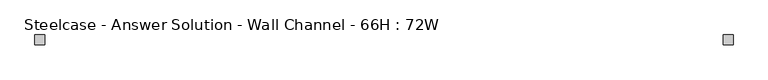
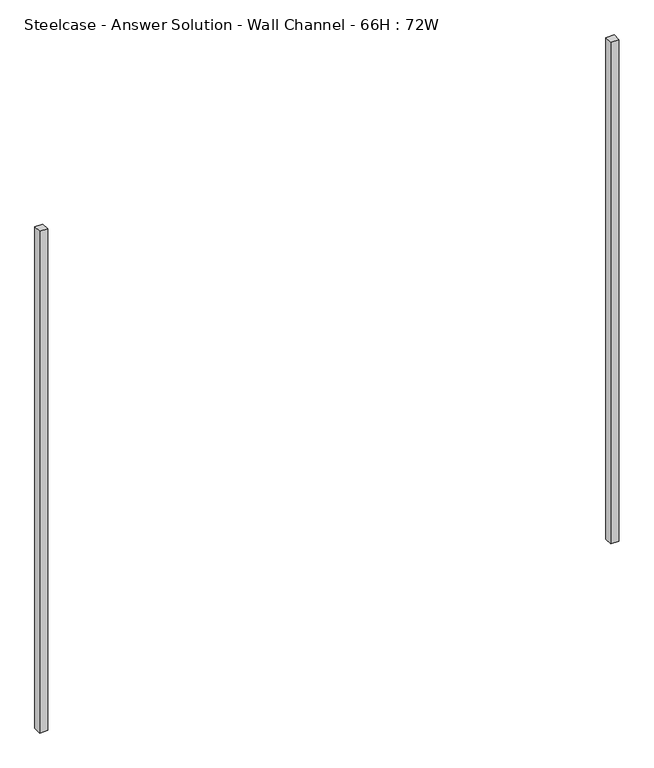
"""IFC4 building model written with IfcOpenShell, lengths in millimetres: furniture geometry, Steelcase - Answer Solution - Wall Channel - 66H : 72W."""

import ifcopenshell
import ifcopenshell.guid

model = None  # the IFC model being written
_history = None  # IfcOwnerHistory: only IFC2X3 demands one
_inside = {}  # id of a spatial element -> (the spatial element, [elements in it])
_under = {}  # id of a project, library or spatial element -> (it, [spatial elements below it])
_declared = {}  # id of a project -> (the project, [libraries it declares])
_typed = {}  # id of a type object -> (the type object, [elements of that type])
_made_of = {}  # id of a material, layer set ... -> (it, [elements and type objects made of it])


def new_model(schema):
    """Start an empty IFC model of exactly this schema.

    Asked for "IFC4X3", IfcOpenShell would pick the latest addendum, in which some entities
    have other attributes; the version numbers below select the first issue.
    IFC2X3 requires an IfcOwnerHistory on every rooted entity: one is made here for all.
    """
    global model, _history
    if schema == "IFC4X3":
        model = ifcopenshell.file(schema_version=(4, 3, 0, 0))
    else:
        model = ifcopenshell.file(schema=schema)
    _inside.clear()
    _under.clear()
    _declared.clear()
    _typed.clear()
    _made_of.clear()
    _history = None
    if model.schema == "IFC2X3":
        org = make("IfcOrganization", Name="unknown")
        user = make(
            "IfcPersonAndOrganization",
            ThePerson=make("IfcPerson", FamilyName="unknown"),
            TheOrganization=org,
        )
        app = make(
            "IfcApplication",
            ApplicationDeveloper=org,
            Version="unknown",
            ApplicationFullName="unknown",
            ApplicationIdentifier="unknown",
        )
        _history = make(
            "IfcOwnerHistory",
            OwningUser=user,
            OwningApplication=app,
            ChangeAction="ADDED",
            CreationDate=0,
        )
    return model


def make(cls, **values):
    """One entity of the class cls with the attributes given. An attribute that is None is left unset."""
    return model.create_entity(
        cls, **{name: value for name, value in values.items() if value is not None}
    )


def rooted(cls, **values):
    """An entity with a GlobalId (a new one), such as an element, a storey or a relation."""
    return make(cls, GlobalId=ifcopenshell.guid.new(), OwnerHistory=_history, **values)


def si_unit(unit_type, name, prefix=None):
    """IfcSIUnit, for example si_unit("LENGTHUNIT", "METRE", prefix="MILLI")."""
    return make("IfcSIUnit", UnitType=unit_type, Prefix=prefix, Name=name)


def assignment(units):
    """IfcUnitAssignment: the units of a project."""
    return None if units is None else make("IfcUnitAssignment", Units=units)


def point(xyz):
    """IfcCartesianPoint."""
    return None if xyz is None else make("IfcCartesianPoint", Coordinates=xyz)


def direction(xyz):
    """IfcDirection."""
    return None if xyz is None else make("IfcDirection", DirectionRatios=xyz)


def frame(location, z_axis=None, x_axis=None):
    """IfcAxis2Placement3D, a coordinate frame: its origin and axes. An axis left out is left unset."""
    return make(
        "IfcAxis2Placement3D",
        Location=point(location),
        Axis=direction(z_axis),
        RefDirection=direction(x_axis),
    )


def origin():
    """The frame at (0, 0, 0) with its axes left unset."""
    return frame((0.0, 0.0, 0.0))


def origin_with_axes():
    """The frame at (0, 0, 0) with the z axis (0, 0, 1) and the x axis (1, 0, 0) written out."""
    return frame((0.0, 0.0, 0.0), z_axis=(0.0, 0.0, 1.0), x_axis=(1.0, 0.0, 0.0))


def place(relative_to, where):
    """IfcLocalPlacement: puts the frame where relative to a parent placement (None: the world)."""
    return make(
        "IfcLocalPlacement", PlacementRelTo=relative_to, RelativePlacement=where
    )


def context(
    kind, dimensions, precision=None, world=None, true_north=None, identifier=None
):
    """IfcGeometricRepresentationContext, for example the 3D "Model" context."""
    return make(
        "IfcGeometricRepresentationContext",
        ContextIdentifier=identifier,
        ContextType=kind,
        CoordinateSpaceDimension=dimensions,
        Precision=precision,
        WorldCoordinateSystem=world,
        TrueNorth=true_north,
    )


def project(units=None, contexts=None):
    """IfcProject with its units and contexts."""
    return rooted(
        "IfcProject",
        Name="project",
        RepresentationContexts=contexts,
        UnitsInContext=assignment(units),
    )


def spatial(cls, under=None, at=None, **own):
    """A site, building, storey or space (cls), placed at a placement, below another one or the project."""
    s = rooted(cls, ObjectPlacement=at, **own)
    if under is not None:
        _under.setdefault(under.id(), (under, []))[1].append(s)
    return s


def polyline(points):
    """IfcPolyline through the points."""
    return make("IfcPolyline", Points=[point(p) for p in points])


def outline(outer, holes=None, kind="AREA"):
    """IfcArbitraryClosedProfileDef: a profile drawn as a closed curve; with holes, ...WithVoids."""
    if holes is None:
        return make("IfcArbitraryClosedProfileDef", ProfileType=kind, OuterCurve=outer)
    return make(
        "IfcArbitraryProfileDefWithVoids",
        ProfileType=kind,
        OuterCurve=outer,
        InnerCurves=holes,
    )


def extrude(swept, where, along, depth):
    """IfcExtrudedAreaSolid: the profile swept, set in the frame where, extruded along a direction by depth."""
    return make(
        "IfcExtrudedAreaSolid",
        SweptArea=swept,
        Position=where,
        ExtrudedDirection=direction(along),
        Depth=depth,
    )


def shape(context_of_items, identifier, shape_type, items):
    """IfcShapeRepresentation: the items that make up one representation, for example the "Body"."""
    return make(
        "IfcShapeRepresentation",
        ContextOfItems=context_of_items,
        RepresentationIdentifier=identifier,
        RepresentationType=shape_type,
        Items=items,
    )


def source(mapping_origin, context_of_items, identifier, shape_type, items):
    """IfcRepresentationMap: a shape defined once, which mapped items show again and again."""
    return make(
        "IfcRepresentationMap",
        MappingOrigin=mapping_origin,
        MappedRepresentation=shape(context_of_items, identifier, shape_type, items),
    )


def transform(
    local_origin,
    x_axis=None,
    y_axis=None,
    z_axis=None,
    scale=None,
    scale2=None,
    scale3=None,
    uniform=True,
):
    """IfcCartesianTransformationOperator3D, or its non-uniform kind. x_axis, y_axis, z_axis: its Axis1, 2, 3."""
    if uniform:
        return make(
            "IfcCartesianTransformationOperator3D",
            Axis1=direction(x_axis),
            Axis2=direction(y_axis),
            LocalOrigin=point(local_origin),
            Scale=scale,
            Axis3=direction(z_axis),
        )
    return make(
        "IfcCartesianTransformationOperator3DnonUniform",
        Axis1=direction(x_axis),
        Axis2=direction(y_axis),
        LocalOrigin=point(local_origin),
        Scale=scale,
        Axis3=direction(z_axis),
        Scale2=scale2,
        Scale3=scale3,
    )


def mapped(mapping_source, mapping_target):
    """IfcMappedItem: shows the shape of a source again, moved by a transform."""
    return make(
        "IfcMappedItem", MappingSource=mapping_source, MappingTarget=mapping_target
    )


def made_of(thing, what):
    """Note that an element or type object is made of a material, layer set ...; save() writes the relation."""
    if what is not None:
        _made_of.setdefault(what.id(), (what, []))[1].append(thing)
    return thing


def element(
    cls,
    number,
    at=None,
    inside=None,
    cuts=None,
    type_object=None,
    material=None,
    context=None,
    identifier="Body",
    shape_type=None,
    held_by="IfcProductDefinitionShape",
    body=None,
    shapes=None,
    **own,
):
    """One element of the class cls, such as IfcWall. Its Tag is "e" and its number.

    at: its placement. inside: the storey or other place that contains it. cuts: it is an
    opening in that element (IfcRelVoidsElement). A single representation is given by context,
    identifier, shape_type and body (its items); several are given by shapes. held_by: the class
    of the entity that holds the representations. save() writes the other relations.
    """
    e = rooted(cls, Tag="e%d" % number, ObjectPlacement=at, **own)
    if body is not None:
        shapes = [shape(context, identifier, shape_type, body)]
    if shapes is not None:
        e.Representation = make(held_by, Representations=shapes)
    if inside is not None:
        _inside.setdefault(inside.id(), (inside, []))[1].append(e)
    if cuts is not None:
        rooted(
            "IfcRelVoidsElement", RelatingBuildingElement=cuts, RelatedOpeningElement=e
        )
    if type_object is not None:
        _typed.setdefault(type_object.id(), (type_object, []))[1].append(e)
    return made_of(e, material)


def aggregate(whole, parts):
    """IfcRelAggregates: a whole, such as a stair, and the parts it consists of."""
    return rooted("IfcRelAggregates", RelatingObject=whole, RelatedObjects=parts)


def save(model, path):
    """Write the relations noted so far, then the file.

    IfcRelAggregates (storeys below a building ...), IfcRelContainedInSpatialStructure (elements
    in a storey), IfcRelDefinesByType, IfcRelAssociatesMaterial and IfcRelDeclares: one each for
    every whole, place, type object, material and project.
    """
    for whole, parts in _under.values():
        aggregate(whole, parts)
    for where, things in _inside.values():
        rooted(
            "IfcRelContainedInSpatialStructure",
            RelatedElements=things,
            RelatingStructure=where,
        )
    for kind, things in _typed.values():
        rooted("IfcRelDefinesByType", RelatedObjects=things, RelatingType=kind)
    for what, things in _made_of.values():
        rooted("IfcRelAssociatesMaterial", RelatedObjects=things, RelatingMaterial=what)
    for by, libraries in _declared.values():
        rooted("IfcRelDeclares", RelatingContext=by, RelatedDefinitions=libraries)
    model.write(path)


def steelcase_answer_solution_wall_channel_66h_72w_49448df2(model_context):
    return source(origin(), model_context, "Body", "SweptSolid", [
        extrude(outline(polyline([(1803.4, 0.0), (1828.8, 0.0), (1828.8, -25.4), (1803.4, -25.4), (1803.4, 0.0)])), origin_with_axes(), (0.0, 0.0, 1.0), 1673.225),
        extrude(outline(polyline([(25.4, 0.0), (25.4, -25.4), (0.0, -25.4), (0.0, 0.0), (25.4, 0.0)])), origin_with_axes(), (0.0, 0.0, 1.0), 1673.225),
    ])


if __name__ == "__main__":
    model = new_model("IFC4")
    model_context = context("Model", 3, world=origin())
    ifc_project = project(units=[si_unit("LENGTHUNIT", "METRE", prefix="MILLI")], contexts=[model_context])
    site = spatial("IfcSite", under=ifc_project)
    building = spatial("IfcBuilding", under=site)
    placement = place(None, origin())
    steelcase_answer_solution_wall_channel_66h_72w_shape = steelcase_answer_solution_wall_channel_66h_72w_49448df2(model_context)
    element("IfcFurniture", 1, ObjectType="Steelcase - Answer Solution - Wall Channel - 66H : 72W", at=placement, inside=building, context=model_context, shape_type="MappedRepresentation", body=[
        mapped(steelcase_answer_solution_wall_channel_66h_72w_shape, transform((0.0, 0.0, 0.0), x_axis=(1.0, 0.0, 0.0), y_axis=(0.0, 1.0, 0.0), z_axis=(0.0, 0.0, 1.0))),
    ])
    save(model, "model.ifc")
